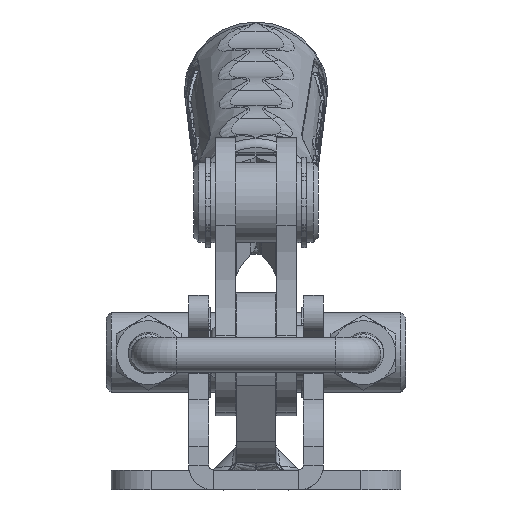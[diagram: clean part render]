
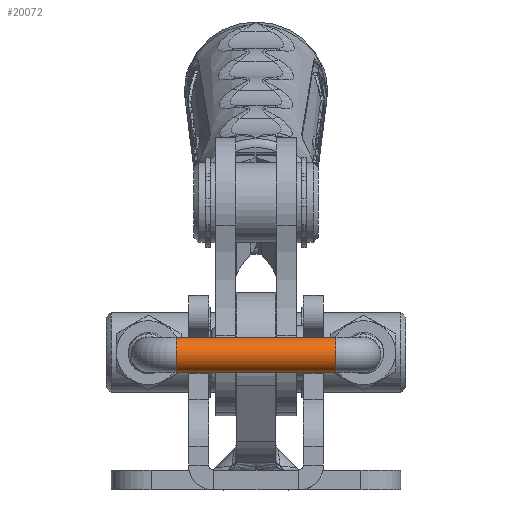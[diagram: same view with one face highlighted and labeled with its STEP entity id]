
A CAD part, left-side view. The second image highlights one B-rep face of the part: STEP entity #20072.
In plain terms, the highlighted cylindrical face has radius 3.5 mm (diameter 7 mm), a full revolution.
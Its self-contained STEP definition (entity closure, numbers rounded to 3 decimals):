
#15093=CYLINDRICAL_SURFACE('',#47386,3.5);
#20072=ADVANCED_FACE('',(#21180,#21181),#15093,.T.);
#21180=FACE_BOUND('',#23224,.T.);
#21181=FACE_BOUND('',#23225,.T.);
#23224=EDGE_LOOP('',(#33616));
#23225=EDGE_LOOP('',(#33617));
#24776=CIRCLE('',#47383,3.5);
#24777=CIRCLE('',#47385,3.5);
#33616=ORIENTED_EDGE('',*,*,#41196,.T.);
#33617=ORIENTED_EDGE('',*,*,#41195,.F.);
#36674=VERTEX_POINT('',#85913);
#36675=VERTEX_POINT('',#85916);
#41195=EDGE_CURVE('',#36674,#36674,#24776,.T.);
#41196=EDGE_CURVE('',#36675,#36675,#24777,.T.);
#47383=AXIS2_PLACEMENT_3D('',#85912,#54915,#54916);
#47385=AXIS2_PLACEMENT_3D('',#85915,#54919,#54920);
#47386=AXIS2_PLACEMENT_3D('',#85917,#54921,#54922);
#54915=DIRECTION('',(0.,-1.,0.));
#54916=DIRECTION('',(-0.004,0.,1.));
#54919=DIRECTION('',(0.,-1.,0.));
#54920=DIRECTION('',(-0.004,0.,1.));
#54921=DIRECTION('',(0.,-1.,0.));
#54922=DIRECTION('',(0.,0.,-1.));
#85912=CARTESIAN_POINT('',(-89.999,-16.,69.5));
#85913=CARTESIAN_POINT('',(-90.014,-16.,73.));
#85915=CARTESIAN_POINT('',(-89.999,16.,69.5));
#85916=CARTESIAN_POINT('',(-90.014,16.,73.));
#85917=CARTESIAN_POINT('',(-89.999,16.,69.5));
